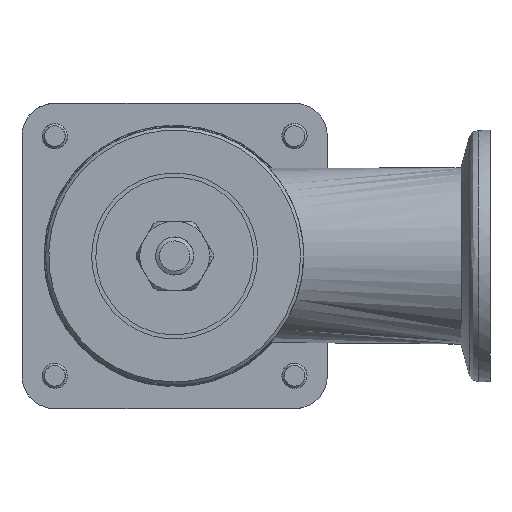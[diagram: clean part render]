
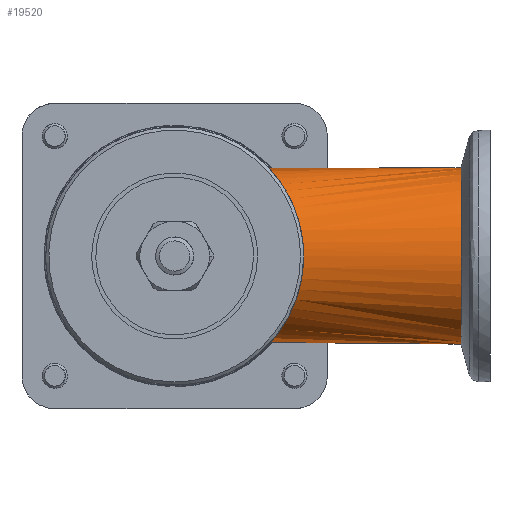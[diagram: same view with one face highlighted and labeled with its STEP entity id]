
A CAD part, front view. The second image highlights one B-rep face of the part: STEP entity #19520.
In plain terms, the highlighted free-form (B-spline) face has degree [2, 1] with [7, 2] control points.
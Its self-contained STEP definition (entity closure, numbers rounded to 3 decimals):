
#19415=CARTESIAN_POINT('V3',(4.594,14.0,0.0));
#19416=VERTEX_POINT('V3',#19415);
#19422=CARTESIAN_POINT('E5',(4.594,14.0,0.0));
#19423=CARTESIAN_POINT('E5',(4.594,14.0,
   24.249));
#19424=CARTESIAN_POINT('E5',(4.594,-7.,
   12.124));
#19425=CARTESIAN_POINT('E5',(4.594,-28.,
   0.));
#19426=CARTESIAN_POINT('E5',(4.594,-7.,
   -12.124));
#19427=CARTESIAN_POINT('E5',(4.594,14.,
   -24.249));
#19428=CARTESIAN_POINT('E5',(4.594,14.0,0.0));
#19436=(BOUNDED_CURVE()B_SPLINE_CURVE(2,(#19422,#19423,#19424,
   #19425,#19426,#19427,#19428),.CIRCULAR_ARC.,.T.,.U.)
   B_SPLINE_CURVE_WITH_KNOTS((3,2,2,3),(0.0,1.117,
   2.235,3.352),.UNSPECIFIED.)CURVE()
   GEOMETRIC_REPRESENTATION_ITEM()RATIONAL_B_SPLINE_CURVE((1.0,
   0.5,1.0,0.5,1.0,0.5,1.0)
   )REPRESENTATION_ITEM('E5'));
#19437=EDGE_CURVE('E5',#19416,#19416,#19436,.T.);
#19444=CARTESIAN_POINT('F7',(4.594,14.0,0.0));
#19445=CARTESIAN_POINT('F7',(4.594,14.0,
   24.249));
#19446=CARTESIAN_POINT('F7',(4.594,-7.,
   12.124));
#19447=CARTESIAN_POINT('F7',(4.594,-28.,
   0.));
#19448=CARTESIAN_POINT('F7',(4.594,-7.,
   -12.124));
#19449=CARTESIAN_POINT('F7',(4.594,14.,
   -24.249));
#19450=CARTESIAN_POINT('F7',(4.594,14.0,0.0));
#19451=CARTESIAN_POINT('F7',(36.094,14.,
   0.0));
#19452=CARTESIAN_POINT('F7',(36.094,14.,
   24.249));
#19453=CARTESIAN_POINT('F7',(36.094,-7.,
   12.124));
#19454=CARTESIAN_POINT('F7',(36.094,-28.,
   0.));
#19455=CARTESIAN_POINT('F7',(36.094,-7.,
   -12.124));
#19456=CARTESIAN_POINT('F7',(36.094,14.,
   -24.249));
#19457=CARTESIAN_POINT('F7',(36.094,14.,
   0.0));
#19465=(BOUNDED_SURFACE()B_SPLINE_SURFACE(2,1,((#19444,#19451),(
   #19445,#19452),(#19446,#19453),(#19447,#19454),(#19448,
   #19455),(#19449,#19456),(#19450,#19457)),.CYLINDRICAL_SURF.,
   .T.,.F.,.U.)B_SPLINE_SURFACE_WITH_KNOTS((3,2,2,3),(2,2),(0.0,
   1.117,2.235,3.352),(0.0,
   0.726),.UNSPECIFIED.)GEOMETRIC_REPRESENTATION_ITEM()
   RATIONAL_B_SPLINE_SURFACE(((1.0,1.0),(0.5,
   0.5),(1.0,1.0),(0.5,
   0.5),(1.0,1.0),(0.5,
   0.5),(1.0,1.0)))REPRESENTATION_ITEM('F7')SURFACE()
   );
#19466=CARTESIAN_POINT('V8',(29.55,14.,
   0.0));
#19467=VERTEX_POINT('V8',#19466);
#19468=CARTESIAN_POINT('E12',(29.55,14.,
   0.0));
#19469=CARTESIAN_POINT('E12',(29.55,14.,
   -0.825));
#19470=CARTESIAN_POINT('E12',(29.6,13.927,
   -1.645));
#19471=CARTESIAN_POINT('E12',(29.828,13.592,
   -3.531));
#19472=CARTESIAN_POINT('E12',(30.041,13.276,
   -4.569));
#19473=CARTESIAN_POINT('E12',(30.814,12.093,
   -7.309));
#19474=CARTESIAN_POINT('E12',(31.484,11.028,
   -8.786));
#19475=CARTESIAN_POINT('E12',(33.134,8.032,
   -11.742));
#19476=CARTESIAN_POINT('E12',(34.179,5.798,
   -12.983));
#19477=CARTESIAN_POINT('E12',(34.946,2.34,
   -13.845));
#19478=CARTESIAN_POINT('E12',(35.081,1.262,
   -13.986));
#19479=CARTESIAN_POINT('E12',(35.104,-0.931,
   -14.012));
#19480=CARTESIAN_POINT('E12',(34.995,-2.001,
   -13.898));
#19481=CARTESIAN_POINT('E12',(34.582,-4.064,
   -13.438));
#19482=CARTESIAN_POINT('E12',(34.29,-5.029,
   -13.103));
#19483=CARTESIAN_POINT('E12',(33.376,-7.503,
   -11.947));
#19484=CARTESIAN_POINT('E12',(32.63,-8.978,
   -10.899));
#19485=CARTESIAN_POINT('E12',(31.146,-11.599,
   -8.091));
#19486=CARTESIAN_POINT('E12',(30.367,-12.787,
   -6.185));
#19487=CARTESIAN_POINT('E12',(29.658,-13.845,
   -2.515));
#19488=CARTESIAN_POINT('E12',(29.528,-14.032,
   -1.093));
#19489=CARTESIAN_POINT('E12',(29.575,-13.964,
   1.629));
#19490=CARTESIAN_POINT('E12',(29.717,-13.757,
   2.885));
#19491=CARTESIAN_POINT('E12',(30.184,-13.059,
   5.173));
#19492=CARTESIAN_POINT('E12',(30.485,-12.602,
   6.197));
#19493=CARTESIAN_POINT('E12',(31.726,-10.627,
   9.525));
#19494=CARTESIAN_POINT('E12',(32.89,-8.631,
   11.29));
#19495=CARTESIAN_POINT('E12',(34.402,-4.832,
   13.268));
#19496=CARTESIAN_POINT('E12',(34.994,-2.834,
   13.894));
#19497=CARTESIAN_POINT('E12',(35.124,0.498,
   14.033));
#19498=CARTESIAN_POINT('E12',(35.047,1.563,
   13.953));
#19499=CARTESIAN_POINT('E12',(34.687,3.654,
   13.556));
#19500=CARTESIAN_POINT('E12',(34.412,4.638,
   13.247));
#19501=CARTESIAN_POINT('E12',(33.283,7.874,
   11.85));
#19502=CARTESIAN_POINT('E12',(32.076,10.03,
   10.165));
#19503=CARTESIAN_POINT('E12',(30.503,12.592,
   6.369));
#19504=CARTESIAN_POINT('E12',(29.942,13.423,
   4.536));
#19505=CARTESIAN_POINT('E12',(29.597,13.931,
   1.601));
#19506=CARTESIAN_POINT('E12',(29.55,14.,
   0.803));
#19507=CARTESIAN_POINT('E12',(29.55,14.,
   0.0));
#19508=B_SPLINE_CURVE_WITH_KNOTS('E12',3,(#19468,#19469,#19470,
   #19471,#19472,#19473,#19474,#19475,#19476,#19477,#19478,#19479,
   #19480,#19481,#19482,#19483,#19484,#19485,#19486,#19487,#19488,
   #19489,#19490,#19491,#19492,#19493,#19494,#19495,#19496,#19497,
   #19498,#19499,#19500,#19501,#19502,#19503,#19504,#19505,#19506,
   #19507),.UNSPECIFIED.,.T.,.U.,(4,2,2,2,2,2,2,2,2,2,2,2,2,2,2,2,2,
   2,2,4),(0.0,0.027,0.063,
   0.127,0.223,0.265,
   0.307,0.347,0.418,
   0.495,0.54,0.58,
   0.617,0.708,0.777,
   0.811,0.844,0.928,
   0.981,1.0),.UNSPECIFIED.);
#19509=EDGE_CURVE('E12',#19467,#19467,#19508,.T.);
#19510=ORIENTED_EDGE('E12',*,*,#19509,.F.);
#19511=CARTESIAN_POINT('E13',(29.55,14.,
   0.0));
#19512=CARTESIAN_POINT('E13',(4.594,14.0,0.0));
#19513=B_SPLINE_CURVE_WITH_KNOTS('E13',1,(#19511,#19512),
   .POLYLINE_FORM.,.F.,.U.,(2,2),(0.425,1.0),
   .UNSPECIFIED.);
#19514=EDGE_CURVE('E13',#19467,#19416,#19513,.T.);
#19515=ORIENTED_EDGE('E13',*,*,#19514,.T.);
#19516=ORIENTED_EDGE('E5',*,*,#19437,.F.);
#19517=ORIENTED_EDGE('E13',*,*,#19514,.F.);
#19518=EDGE_LOOP('F7',(#19510,#19515,#19516,#19517));
#19519=FACE_OUTER_BOUND('F7',#19518,.F.);
#19520=ADVANCED_FACE('F7',(#19519),#19465,.T.);
